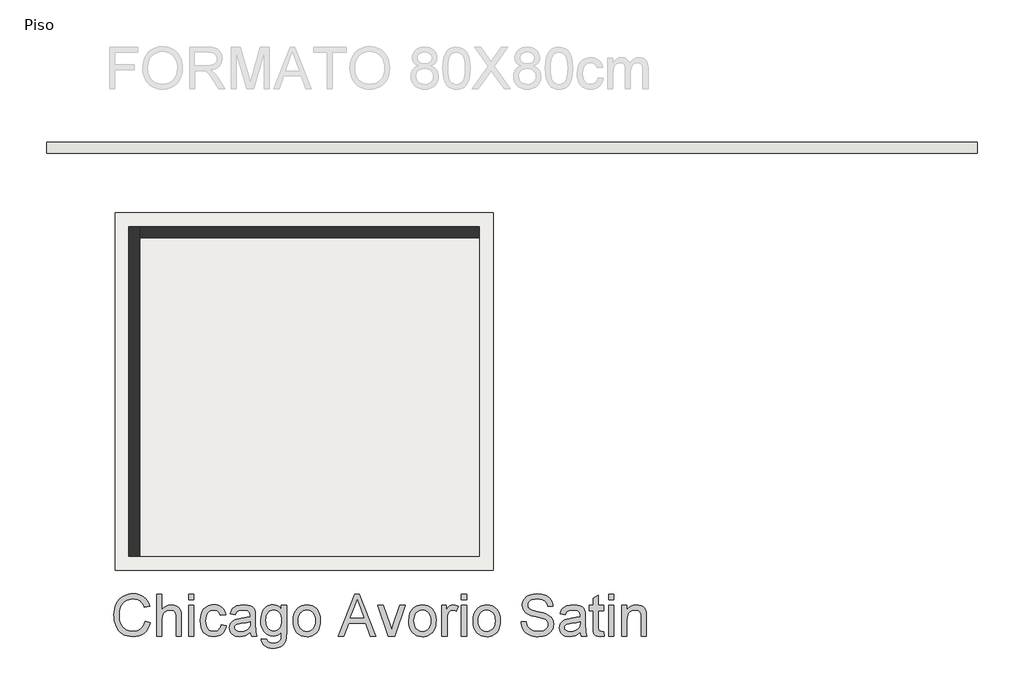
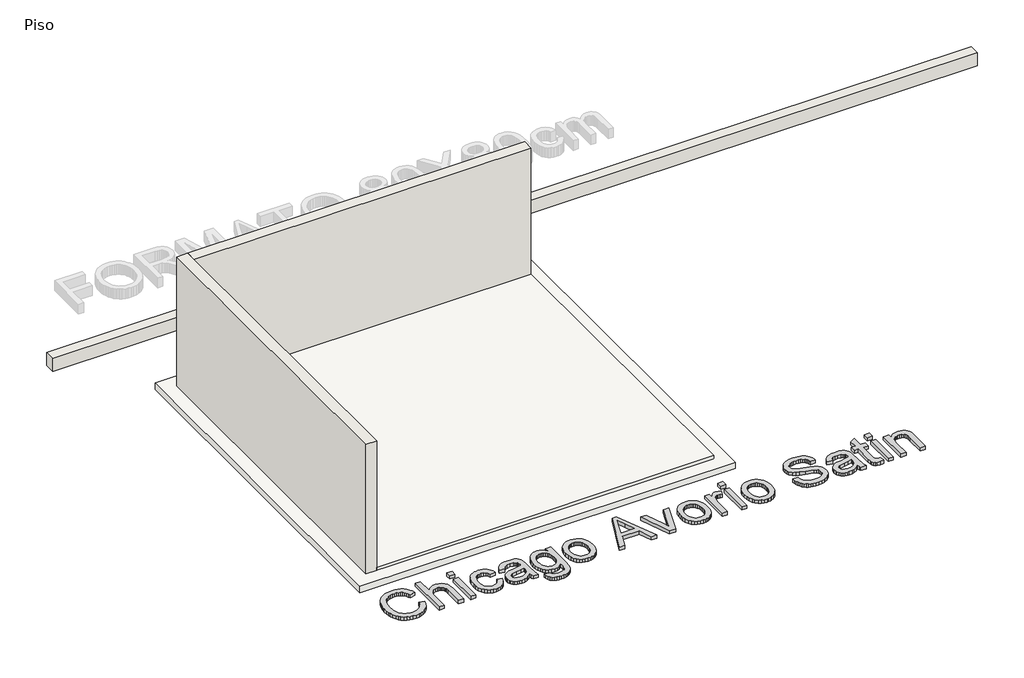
# One storey, part 1 of 2: 3 walls, 2 slabs, 1 proxy.
"""IFC4 building model written with IfcOpenShell, lengths in millimetres."""

from ifc_helpers import new_model, si_unit, frame, origin, origin_with_axes, place, context, project, spatial, polyline, outline, extrude, faceted_brep, element, save

model = new_model("IFC4")

# Units and contexts
model_context = context("Model", 3, world=origin())
ifc_project = project(units=[si_unit("LENGTHUNIT", "METRE", prefix="MILLI")], contexts=[model_context])

# Site, building, storey
site = spatial("IfcSite", under=ifc_project)
building = spatial("IfcBuilding", under=site)
storey = spatial("IfcBuildingStorey", under=building, Name="Piso", Elevation=0.0)

# Proxy
placement = place(None, origin())
element("IfcBuildingElementProxy", 1, Name="600mm Arial", ObjectType="600mm Arial", at=placement, inside=storey, context=model_context, shape_type="SweptSolid", body=[
    extrude(outline(polyline([(93115.5783578, -5019.2053005), (93190.9205904, -5038.6294699), (93176.0121726, -5085.4838405), (93156.1557419, -5126.424508), (93131.3512984, -5161.4514725), (93101.598842, -5190.5647339), (93067.5697575, -5213.4515925), (93029.9354294, -5229.7993486), (92988.6958577, -5239.6080023), (92943.8510425, -5242.8775536), (92897.9071798, -5240.4035472), (92856.4606745, -5232.9815279), (92819.5115266, -5220.6114958), (92787.0597361, -5203.2934509), (92758.6592461, -5181.2849105), (92733.8639996, -5154.8433921), (92712.6739967, -5123.9688957), (92695.0892373, -5088.6614212), (92681.279867, -5050.4476789), (92671.416031, -5010.8543792), (92665.4977294, -4969.881522), (92663.5249622, -4927.5291073), (92665.7552468, -4882.0864839), (92672.4461005, -4839.6420987), (92683.5975235, -4800.1959517), (92699.2095157, -4763.7480431), (92718.9325892, -4730.9007794), (92742.417256, -4702.2565676), (92769.6635163, -4677.8154075), (92800.67137, -4657.5772993), (92834.3877548, -4641.7077897), (92869.7596087, -4630.3724257), (92906.7869315, -4623.5712073), (92945.4697233, -4621.3041345), (92988.5625005, -4624.2379934), (93028.0776253, -4633.0395702), (93064.0150977, -4647.7088647), (93096.3749177, -4668.2458771), (93124.6236564, -4694.1079814), (93148.2278849, -4724.7525516), (93167.1876032, -4760.1795877), (93181.5028114, -4800.3890898), (93106.1605788, -4818.3417311), (93094.2963844, -4788.713435), (93080.0409571, -4763.3985552), (93063.3942968, -4742.3970918), (93044.3564036, -4725.7090448), (93022.8169128, -4712.9941233), (92998.6654598, -4703.9120365), (92971.9020446, -4698.4627845), (92942.5266673, -4696.6463671), (92908.727509, -4698.6605211), (92877.8162244, -4704.7029828), (92849.7928134, -4714.7737525), (92824.6572761, -4728.8728299), (92802.7269106, -4746.3656188), (92784.3190153, -4766.6175226), (92769.43359, -4789.6285414), (92758.0706349, -4815.3986752), (92743.6680548, -4870.5441863), (92738.8671948, -4927.3819545), (92744.5509716, -4996.985228), (92751.6556926, -5028.2551976), (92761.6023021, -5057.1707224), (92774.5517483, -5083.1569868), (92790.6649797, -5105.6391753), (92809.9419962, -5124.6172877), (92832.3827979, -5140.0913241), (92856.8975344, -5152.0980727), (92882.3963552, -5160.6743218), (92908.8792603, -5165.8200712), (92936.3462498, -5167.535321), (92969.1015429, -5165.1992703), (92999.2356769, -5158.1911183), (93026.7486516, -5146.5108649), (93051.6404671, -5130.1585103), (93073.3225122, -5109.2076306), (93091.2061757, -5083.7318025), (93105.2914575, -5053.7310258), (93115.5783578, -5019.2053005)])), origin_with_axes(), (0.0, 0.0, 1.0), 50.0),
    extrude(outline(polyline([(93285.0983812, -5233.4597745), (93285.0983812, -4630.7219136), (93360.4406138, -4630.7219136), (93360.4406138, -4852.3340275), (93388.1145369, -4821.3031812), (93419.1913685, -4799.138291), (93453.6711085, -4785.8393569), (93491.5537569, -4781.4063788), (93537.0607597, -4786.2440271), (93576.1666158, -4800.7569718), (93606.9583388, -4823.8047788), (93627.5229423, -4854.2470139), (93639.1112252, -4896.0751967), (93642.9739861, -4953.280847), (93642.9739861, -5233.4597745), (93567.6317535, -5233.4597745), (93567.6317535, -4961.0799453), (93566.1326344, -4935.6409053), (93561.635277, -4913.9174735), (93554.1396813, -4895.9096498), (93543.6458474, -4881.6174343), (93530.4020956, -4870.7373243), (93514.6567462, -4862.9658172), (93496.4097992, -4858.3029129), (93475.6612547, -4856.7486114), (93443.821068, -4860.9424662), (93413.9306559, -4873.5240304), (93389.1721976, -4893.2792936), (93372.7278725, -4918.994245), (93363.5124285, -4953.1704824), (93360.4406138, -4998.3096032), (93360.4406138, -5233.4597745), (93285.0983812, -5233.4597745)])), origin_with_axes(), (0.0, 0.0, 1.0), 50.0),
    extrude(outline(polyline([(93746.569556, -4706.0641462), (93746.569556, -4630.7219136), (93821.9117886, -4630.7219136), (93821.9117886, -4706.0641462), (93746.569556, -4706.0641462)])), origin_with_axes(), (0.0, 0.0, 1.0), 50.0),
    extrude(outline(polyline([(93746.569556, -5233.4597745), (93746.569556, -4790.8241579), (93821.9117886, -4790.8241579), (93821.9117886, -5233.4597745), (93746.569556, -5233.4597745)])), origin_with_axes(), (0.0, 0.0, 1.0), 50.0),
    extrude(outline(polyline([(94217.4585098, -5073.3575302), (94292.8007424, -5082.7753093), (94284.606171, -5118.3265056), (94271.7946805, -5149.7850147), (94254.366271, -5177.1508366), (94232.3209424, -5200.4239713), (94206.5875968, -5218.9974136), (94178.0951363, -5232.264158), (94146.8435608, -5240.2242047), (94112.8328704, -5242.8775536), (94070.5770247, -5239.175741), (94032.6897777, -5228.0703033), (93999.1711294, -5209.5612404), (93970.0210798, -5183.6485524), (93946.4260484, -5150.8196828), (93929.5724545, -5111.5620754), (93919.4602981, -5065.8757301), (93916.0895793, -5013.760647), (93921.8469326, -4946.7141534), (93929.0436241, -4916.5432312), (93939.1189922, -4888.6071922), (93952.1420149, -4863.4670564), (93968.1816699, -4841.6838437), (93987.2379572, -4823.2575543), (94009.3108769, -4808.1881881), (94033.4025491, -4796.4711465), (94058.5150938, -4788.1018311), (94084.648511, -4783.0802419), (94111.8028008, -4781.4063788), (94145.2294786, -4783.7056413), (94175.46478, -4790.6034287), (94202.5087052, -4802.0997411), (94226.3612541, -4818.1945783), (94246.6177564, -4838.5200586), (94262.8735421, -4862.7082998), (94275.1286111, -4890.7593019), (94283.3829633, -4922.673065), (94208.0407307, -4932.0908441), (94194.3739146, -4899.2205878), (94173.0919412, -4875.657746), (94145.3720328, -4861.4758951), (94112.391412, -4856.7486114), (94086.7914236, -4859.0754651), (94063.7022299, -4866.0560259), (94043.1238308, -4877.690294), (94025.0562263, -4893.9782694), (94010.345545, -4915.297031), (93999.8379155, -4942.0236579), (93993.5333379, -4974.1581502), (93991.431812, -5011.7005078), (93993.4873526, -5049.808484), (93999.6539745, -5082.3154568), (94009.9316778, -5109.2214262), (94024.3204623, -5130.5263922), (94042.0293819, -5146.7177986), (94062.2674901, -5158.2830888), (94085.0347871, -5165.2222629), (94110.3312728, -5167.535321), (94149.3451584, -5161.7595736), (94166.2171464, -5154.5398895), (94181.3324979, -5144.4323317), (94194.2681485, -5131.3265356), (94204.6010341, -5115.1121367), (94212.3311545, -5095.7891349), (94217.4585098, -5073.3575302)])), origin_with_axes(), (0.0, 0.0, 1.0), 50.0),
    extrude(outline(polyline([(94641.2585682, -5176.9531), (94605.261315, -5207.8183994), (94568.197204, -5228.015121), (94529.2201066, -5239.1619454), (94487.4838942, -5242.8775536), (94453.9376548, -5240.6426705), (94424.5208908, -5233.9380211), (94399.2336021, -5222.7636055), (94378.0757889, -5207.1194236), (94361.3693478, -5187.9987569), (94349.4361756, -5166.3948868), (94342.2762722, -5142.3078131), (94339.8896378, -5115.737536), (94343.4948813, -5084.5043547), (94354.310612, -5056.1406528), (94370.9940605, -5031.8604411), (94392.2024575, -5012.8777302), (94417.1264627, -4998.5303324), (94444.9567356, -4988.1560601), (94510.1454252, -4976.8252947), (94587.1799149, -4964.905918), (94640.8171098, -4950.9264022), (94641.2585682, -4934.1509832), (94636.0714321, -4900.5265689), (94629.5875119, -4888.0737633), (94620.5100237, -4878.5272256), (94604.8198566, -4868.9990819), (94585.708387, -4862.193265), (94537.22154, -4856.7486114), (94492.3399366, -4860.3722491), (94460.9963906, -4871.243162), (94439.6224467, -4891.3479131), (94424.6496495, -4922.673065), (94349.3074169, -4913.2552859), (94362.3856218, -4872.0525024), (94381.9017616, -4839.6788869), (94409.6768523, -4814.9204286), (94447.5319096, -4796.563117), (94493.8298587, -4785.1955634), (94546.9336247, -4781.4063788), (94597.8668869, -4784.754105), (94638.2419359, -4794.7972835), (94668.684171, -4809.8988394), (94689.8189916, -4828.4216978), (94703.8352956, -4851.322352), (94712.9219809, -4879.5572951), (94716.6008008, -4945.4817487), (94716.6008008, -5039.218081), (94720.4267736, -5170.1104949), (94726.0921563, -5202.4657164), (94735.436359, -5233.4597745), (94660.0941264, -5233.4597745), (94648.0275969, -5207.2665764), (94641.2585682, -5176.9531)]), holes=[polyline([(94641.2585682, -5026.2686348), (94590.6380057, -5038.8134109), (94519.710357, -5049.3716241), (94454.8895495, -5061.5853064), (94438.02216, -5069.9362276), (94425.5325663, -5081.4509341), (94417.8070444, -5095.2465089), (94415.2318704, -5110.4400353), (94420.8420708, -5132.8440488), (94437.6726721, -5151.2013604), (94465.3557922, -5163.4518308), (94503.5235492, -5167.535321), (94543.9905687, -5163.0287665), (94579.7486986, -5149.5091032), (94608.7377999, -5129.5882932), (94628.8977332, -5105.8782986), (94637.8372657, -5081.4509341), (94640.8171098, -5047.6057905), (94641.2585682, -5026.2686348)])]), origin_with_axes(), (0.0, 0.0, 1.0), 50.0),
    extrude(outline(polyline([(94801.3608125, -5271.1308908), (94876.7030451, -5280.5486699), (94885.0171782, -5304.0931176), (94901.1304096, -5320.2799254), (94932.8050494, -5332.8614896), (94974.2653503, -5337.0553443), (95018.4847661, -5332.3096666), (95036.345437, -5326.3775694), (95051.3734165, -5318.0726334), (95074.1821002, -5295.2639497), (95088.161616, -5264.8033205), (95092.2451061, -5232.3929167), (95093.3119639, -5176.9531), (95068.2408059, -5201.6747701), (95040.2633802, -5219.3331059), (95009.3796867, -5229.9281073), (94975.5897255, -5233.4597745), (94934.2811759, -5229.3486932), (94897.9114422, -5217.0154493), (94866.4805242, -5196.4600428), (94839.988422, -5167.6824738), (94818.9685645, -5133.1567485), (94803.9543806, -5095.3568735), (94794.9458702, -5054.2828487), (94791.9430335, -5009.9346742), (94797.3325047, -4949.1053863), (94813.5009184, -4893.168929), (94825.4846744, -4867.9460197), (94839.8780574, -4845.7673339), (94856.6810676, -4826.6328716), (94875.8937048, -4810.5426328), (94897.2078679, -4797.7955217), (94920.3154557, -4788.6904423), (94945.2164682, -4783.2273947), (94971.9109055, -4781.4063788), (95007.1448036, -4785.5266572), (95039.122946, -4797.8874922), (95067.8453328, -4818.4888839), (95093.3119639, -4847.3308324), (95093.3119639, -4790.8241579), (95168.6541965, -4790.8241579), (95168.6541965, -5172.9799745), (95163.5038486, -5261.216471), (95157.0659137, -5294.0361435), (95148.0528048, -5319.3234322), (95136.2483913, -5339.7178903), (95121.4365424, -5357.8590712), (95103.6172583, -5373.7469748), (95082.7905388, -5387.3816013), (95059.1679162, -5398.3260906), (95032.9609226, -5406.143583), (95004.169558, -5410.8340785), (94972.7938223, -5412.397577), (94935.8814626, -5410.1948835), (94902.6939081, -5403.5868032), (94873.2311588, -5392.5733359), (94847.4932147, -5377.1544818), (94826.7032835, -5357.3118467), (94812.0845727, -5333.0270365), (94803.6370824, -5304.3000512), (94801.3608125, -5271.1308908)]), holes=[polyline([(94867.2852661, -5004.7843263), (94869.2948215, -5042.0369768), (94875.3234877, -5073.8909591), (94885.3712647, -5100.3462731), (94899.4381524, -5121.4029188), (94916.5400667, -5137.4655664), (94935.6929231, -5148.9388861), (94956.8967216, -5155.8228779), (94980.1514622, -5158.1175419), (95003.1762766, -5155.8366735), (95024.2789075, -5148.9940684), (95043.459355, -5137.5897266), (95060.7176191, -5121.623648), (95074.977645, -5100.7739359), (95085.1633777, -5074.7186936), (95091.2748174, -5043.457921), (95093.3119639, -5006.9916183), (95091.2150365, -4972.0474273), (95084.9242544, -4941.67417), (95074.4396176, -4915.8718466), (95059.7611259, -4894.6404569), (95042.1303813, -4878.0627745), (95022.7889854, -4866.2215728), (95001.7369383, -4859.1168518), (94978.9742398, -4856.7486114), (94956.5932189, -4859.0800636), (94935.9504405, -4866.07442), (94917.0459044, -4877.7316807), (94899.8796108, -4894.0518458), (94885.619585, -4914.9613387), (94875.4338523, -4940.386583), (94869.3224126, -4970.3275789), (94867.2852661, -5004.7843263)])]), origin_with_axes(), (0.0, 0.0, 1.0), 50.0),
    extrude(outline(polyline([(95262.8319873, -5012.1419662), (95266.9062804, -4954.8167543), (95279.1291597, -4905.4193994), (95299.5006252, -4863.9499015), (95328.0206768, -4830.4082606), (95356.7338666, -4808.9699373), (95388.4269004, -4793.6568493), (95423.0997785, -4784.4689964), (95460.7525007, -4781.4063788), (95502.3185676, -4785.1357826), (95539.902312, -4796.3239937), (95573.5037337, -4814.9710124), (95603.1228328, -4841.0768384), (95627.2972784, -4873.7585552), (95644.5647396, -4912.1332458), (95654.9252163, -4956.2009103), (95658.3787085, -5005.9615487), (95656.8519982, -5046.2906124), (95652.2718674, -5082.0763335), (95644.638316, -5113.3187119), (95633.951344, -5140.0177477), (95620.3443087, -5163.0793503), (95603.9505673, -5183.4094291), (95584.7701198, -5201.007984), (95562.8029662, -5215.8750151), (95538.904432, -5227.6886257), (95513.9298431, -5236.126919), (95487.8791993, -5241.1898949), (95460.7525007, -5242.8775536), (95418.5794285, -5239.1619454), (95380.6461962, -5228.015121), (95346.952804, -5209.4370802), (95317.4992518, -5183.4278232), (95293.5823236, -5150.4288082), (95276.4988034, -5110.8814937), (95266.2486913, -5064.7858797), (95262.8319873, -5012.1419662)]), holes=[polyline([(95338.1742199, -5011.9948134), (95340.3539207, -5048.5392911), (95346.8930232, -5080.1817412), (95357.7915273, -5106.9221637), (95373.049433, -5128.7605587), (95391.6090797, -5145.7245172), (95412.4128065, -5157.8416304), (95435.4606135, -5165.1118983), (95460.7525007, -5167.535321), (95485.9156292, -5165.0981027), (95508.8714657, -5157.7864481), (95529.6200102, -5145.600357), (95548.1612627, -5128.5398295), (95563.4191685, -5106.4853039), (95574.3176726, -5079.3172185), (95580.8567751, -5047.0355734), (95583.0364759, -5009.6403686), (95580.8429795, -4974.2547192), (95574.2624903, -4943.4400036), (95563.2950083, -4917.1962218), (95547.9405335, -4895.5233737), (95529.3303031, -4878.5594152), (95508.5955542, -4866.442302), (95485.7362867, -4859.1720341), (95460.7525007, -4856.7486114), (95435.4606135, -4859.162837), (95412.4128065, -4866.4055138), (95391.6090797, -4878.4766418), (95373.049433, -4895.3762209), (95357.7915273, -4917.1502365), (95346.8930232, -4943.8446738), (95340.3539207, -4975.4595328), (95338.1742199, -5011.9948134)])]), origin_with_axes(), (0.0, 0.0, 1.0), 50.0),
    extrude(outline(polyline([(95917.8090915, -5233.4597745), (96158.4039163, -4630.7219136), (96222.5625363, -4630.7219136), (96463.1573611, -5233.4597745), (96383.5476974, -5233.4597745), (96314.5330351, -5045.104193), (96066.2862648, -5045.104193), (95997.4187553, -5233.4597745), (95917.8090915, -5233.4597745)]), holes=[polyline([(96093.9509908, -4969.7619604), (96287.0154619, -4969.7619604), (96232.7160794, -4821.5790927), (96190.4832263, -4706.0641462), (96152.9592628, -4808.6296465), (96093.9509908, -4969.7619604)])]), origin_with_axes(), (0.0, 0.0, 1.0), 50.0),
    extrude(outline(polyline([(96642.8309276, -5233.4597745), (96487.1432672, -4790.8241579), (96566.9000838, -4790.8241579), (96661.2250274, -5055.9935), (96689.6255174, -5145.1680957), (96717.4373962, -5060.9966952), (96812.350951, -4790.8241579), (96892.1077675, -4790.8241579), (96738.3330935, -5233.4597745), (96642.8309276, -5233.4597745)])), origin_with_axes(), (0.0, 0.0, 1.0), 50.0),
    extrude(outline(polyline([(96939.1966629, -5012.1419662), (96943.270956, -4954.8167543), (96955.4938353, -4905.4193994), (96975.8653008, -4863.9499015), (97004.3853525, -4830.4082606), (97033.0985422, -4808.9699373), (97064.7915761, -4793.6568493), (97099.4644541, -4784.4689964), (97137.1171763, -4781.4063788), (97178.6832432, -4785.1357826), (97216.2669876, -4796.3239937), (97249.8684093, -4814.9710124), (97279.4875084, -4841.0768384), (97303.6619541, -4873.7585552), (97320.9294152, -4912.1332458), (97331.2898919, -4956.2009103), (97334.7433841, -5005.9615487), (97333.2166738, -5046.2906124), (97328.636543, -5082.0763335), (97321.0029916, -5113.3187119), (97310.3160196, -5140.0177477), (97296.7089843, -5163.0793503), (97280.3152429, -5183.4094291), (97261.1347954, -5201.007984), (97239.1676418, -5215.8750151), (97215.2691077, -5227.6886257), (97190.2945187, -5236.126919), (97164.2438749, -5241.1898949), (97137.1171763, -5242.8775536), (97094.9441041, -5239.1619454), (97057.0108719, -5228.015121), (97023.3174796, -5209.4370802), (96993.8639274, -5183.4278232), (96969.9469992, -5150.4288082), (96952.863479, -5110.8814937), (96942.6133669, -5064.7858797), (96939.1966629, -5012.1419662)]), holes=[polyline([(97014.5388955, -5011.9948134), (97016.7185963, -5048.5392911), (97023.2576988, -5080.1817412), (97034.1562029, -5106.9221637), (97049.4141087, -5128.7605587), (97067.9737553, -5145.7245172), (97088.7774821, -5157.8416304), (97111.8252891, -5165.1118983), (97137.1171763, -5167.535321), (97162.2803048, -5165.0981027), (97185.2361413, -5157.7864481), (97205.9846858, -5145.600357), (97224.5259384, -5128.5398295), (97239.7838441, -5106.4853039), (97250.6823482, -5079.3172185), (97257.2214507, -5047.0355734), (97259.4011515, -5009.6403686), (97257.2076551, -4974.2547192), (97250.6271659, -4943.4400036), (97239.6596839, -4917.1962218), (97224.3052092, -4895.5233737), (97205.6949787, -4878.5594152), (97184.9602298, -4866.442302), (97162.1009623, -4859.1720341), (97137.1171763, -4856.7486114), (97111.8252891, -4859.162837), (97088.7774821, -4866.4055138), (97067.9737553, -4878.4766418), (97049.4141087, -4895.3762209), (97034.1562029, -4917.1502365), (97023.2576988, -4943.8446738), (97016.7185963, -4975.4595328), (97014.5388955, -5011.9948134)])]), origin_with_axes(), (0.0, 0.0, 1.0), 50.0),
    extrude(outline(polyline([(97419.5033958, -5233.4597745), (97419.5033958, -4790.8241579), (97485.4278493, -4790.8241579), (97485.4278493, -4856.307153), (97509.7816374, -4818.3417311), (97532.2224391, -4795.9745058), (97554.7368172, -4785.0484106), (97579.3113345, -4781.4063788), (97616.835298, -4787.2189144), (97654.9478727, -4804.6565209), (97629.7847443, -4872.1996552), (97603.2972406, -4860.6113724), (97576.8097369, -4856.7486114), (97554.3137529, -4860.4642196), (97534.2090019, -4871.611044), (97517.9670118, -4889.3429562), (97507.0593107, -4912.8138275), (97497.899049, -4954.8995278), (97494.8456284, -5000.8112008), (97494.8456284, -5233.4597745), (97419.5033958, -5233.4597745)])), origin_with_axes(), (0.0, 0.0, 1.0), 50.0),
    extrude(outline(polyline([(97702.0367681, -4706.0641462), (97702.0367681, -4630.7219136), (97777.3790007, -4630.7219136), (97777.3790007, -4706.0641462), (97702.0367681, -4706.0641462)])), origin_with_axes(), (0.0, 0.0, 1.0), 50.0),
    extrude(outline(polyline([(97702.0367681, -5233.4597745), (97702.0367681, -4790.8241579), (97777.3790007, -4790.8241579), (97777.3790007, -5233.4597745), (97702.0367681, -5233.4597745)])), origin_with_axes(), (0.0, 0.0, 1.0), 50.0),
    extrude(outline(polyline([(97871.5567915, -5012.1419662), (97875.6310846, -4954.8167543), (97887.8539639, -4905.4193994), (97908.2254294, -4863.9499015), (97936.745481, -4830.4082606), (97965.4586708, -4808.9699373), (97997.1517046, -4793.6568493), (98031.8245827, -4784.4689964), (98069.4773049, -4781.4063788), (98111.0433718, -4785.1357826), (98148.6271161, -4796.3239937), (98182.2285379, -4814.9710124), (98211.847637, -4841.0768384), (98236.0220826, -4873.7585552), (98253.2895438, -4912.1332458), (98263.6500205, -4956.2009103), (98267.1035127, -5005.9615487), (98265.5768024, -5046.2906124), (98260.9966716, -5082.0763335), (98253.3631202, -5113.3187119), (98242.6761482, -5140.0177477), (98229.0691129, -5163.0793503), (98212.6753715, -5183.4094291), (98193.494924, -5201.007984), (98171.5277703, -5215.8750151), (98147.6292362, -5227.6886257), (98122.6546473, -5236.126919), (98096.6040035, -5241.1898949), (98069.4773049, -5242.8775536), (98027.3042327, -5239.1619454), (97989.3710004, -5228.015121), (97955.6776082, -5209.4370802), (97926.224056, -5183.4278232), (97902.3071278, -5150.4288082), (97885.2236076, -5110.8814937), (97874.9734955, -5064.7858797), (97871.5567915, -5012.1419662)]), holes=[polyline([(97946.8990241, -5011.9948134), (97949.0787249, -5048.5392911), (97955.6178274, -5080.1817412), (97966.5163315, -5106.9221637), (97981.7742372, -5128.7605587), (98000.3338839, -5145.7245172), (98021.1376107, -5157.8416304), (98044.1854177, -5165.1118983), (98069.4773049, -5167.535321), (98094.6404334, -5165.0981027), (98117.5962699, -5157.7864481), (98138.3448144, -5145.600357), (98156.8860669, -5128.5398295), (98172.1439727, -5106.4853039), (98183.0424768, -5079.3172185), (98189.5815793, -5047.0355734), (98191.7612801, -5009.6403686), (98189.5677837, -4974.2547192), (98182.9872945, -4943.4400036), (98172.0198125, -4917.1962218), (98156.6653377, -4895.5233737), (98138.0551073, -4878.5594152), (98117.3203584, -4866.442302), (98094.4610909, -4859.1720341), (98069.4773049, -4856.7486114), (98044.1854177, -4859.162837), (98021.1376107, -4866.4055138), (98000.3338839, -4878.4766418), (97981.7742372, -4895.3762209), (97966.5163315, -4917.1502365), (97955.6178274, -4943.8446738), (97949.0787249, -4975.4595328), (97946.8990241, -5011.9948134)])]), origin_with_axes(), (0.0, 0.0, 1.0), 50.0),
    extrude(outline(polyline([(98568.4724431, -5026.2686348), (98643.8146758, -5026.2686348), (98652.4599026, -5068.0784236), (98668.0948874, -5101.6844438), (98692.4854637, -5128.3558885), (98727.3974651, -5149.3619504), (98770.0717765, -5162.9919783), (98817.7492831, -5167.535321), (98859.7246187, -5164.0956243), (98896.47603, -5153.7765343), (98926.2560776, -5137.4425738), (98947.3173218, -5115.9582652), (98959.8437037, -5091.2917775), (98964.0191644, -5065.4112791), (98960.8921674, -5040.1929683), (98951.5111765, -5018.3959601), (98932.4548892, -4999.7995253), (98900.3020028, -4984.1829346), (98790.5995918, -4955.4145625), (98718.5866913, -4936.3766693), (98672.5094714, -4918.258481), (98635.003902, -4892.9114116), (98608.4244278, -4862.193265), (98592.5871079, -4826.7662288), (98587.3080013, -4787.2924908), (98588.9404777, -4764.8562876), (98593.8379067, -4743.1650454), (98602.0002885, -4722.2187643), (98613.427623, -4702.0174443), (98627.9911514, -4683.3842212), (98645.5621152, -4667.1422311), (98666.1405143, -4653.291474), (98689.7263488, -4641.8319499), (98742.7381443, -4626.4360884), (98801.4153225, -4621.3041345), (98864.9853313, -4626.6752117), (98920.6090889, -4642.788443), (98944.9444829, -4654.7905931), (98966.3000327, -4669.3127349), (98984.6757384, -4686.3548683), (99000.0715999, -4705.9169934), (99012.3680556, -4727.4288931), (99021.4455438, -4750.3203502), (99027.3040646, -4774.5913649), (99029.9436179, -4800.241937), (98954.6013853, -4800.241937), (98949.5614019, -4776.2008486), (98940.7690223, -4755.2867572), (98928.2242462, -4737.4996627), (98911.9270738, -4722.8395652), (98891.5740025, -4711.380041), (98866.8615294, -4703.1946667), (98837.7896548, -4698.283442), (98804.3583785, -4696.6463671), (98769.8602444, -4698.2650479), (98740.3836995, -4703.1210903), (98715.9287439, -4711.2144941), (98696.4953775, -4722.5452596), (98681.6881272, -4736.1660905), (98671.1115198, -4751.1296906), (98664.7655554, -4767.4360601), (98662.6502339, -4785.0851988), (98664.149353, -4800.2695281), (98668.6467104, -4814.0375118), (98676.1423061, -4826.3891498), (98686.63614, -4837.3244421), (98703.1540416, -4847.6803203), (98729.1632986, -4858.146563), (98809.6558792, -4879.4101423), (98892.7236337, -4899.6068639), (98942.9763142, -4917.2284114), (98985.9265372, -4944.5620437), (99002.5318107, -4960.6292898), (99015.8905257, -4978.2968226), (99026.1590319, -4997.4726716), (99033.4936791, -5018.0648663), (99039.361397, -5063.4982927), (99037.6737383, -5087.065733), (99032.6107624, -5109.9433946), (99024.1724691, -5132.1312775), (99012.3588585, -5153.6293815), (98997.3768643, -5173.6053739), (98979.43342, -5191.2269215), (98958.5285256, -5206.4940243), (98934.6621811, -5219.4066823), (98908.5287639, -5229.6751885), (98880.8226512, -5237.0098358), (98820.692339, -5242.8775536), (98782.1521015, -5241.295661), (98746.8768167, -5236.5499833), (98714.8664846, -5228.6405204), (98686.1211052, -5217.5672723), (98660.4659346, -5203.311845), (98637.7262287, -5185.8558443), (98617.9019877, -5165.1992703), (98600.9932115, -5141.3421229), (98587.3723806, -5115.0569544), (98577.4119756, -5087.1163168), (98571.1119965, -5057.5202103), (98568.4724431, -5026.2686348)])), origin_with_axes(), (0.0, 0.0, 1.0), 50.0),
    extrude(outline(polyline([(99425.4903391, -5176.9531), (99389.4930859, -5207.8183994), (99352.4289749, -5228.015121), (99313.4518775, -5239.1619454), (99271.7156651, -5242.8775536), (99238.1694257, -5240.6426705), (99208.7526617, -5233.9380211), (99183.465373, -5222.7636055), (99162.3075598, -5207.1194236), (99145.6011187, -5187.9987569), (99133.6679464, -5166.3948868), (99126.5080431, -5142.3078131), (99124.1214087, -5115.737536), (99127.7266522, -5084.5043547), (99138.5423829, -5056.1406528), (99155.2258314, -5031.8604411), (99176.4342284, -5012.8777302), (99201.3582335, -4998.5303324), (99229.1885065, -4988.1560601), (99294.377196, -4976.8252947), (99371.4116858, -4964.905918), (99425.0488807, -4950.9264022), (99425.4903391, -4934.1509832), (99420.303203, -4900.5265689), (99413.8192828, -4888.0737633), (99404.7417946, -4878.5272256), (99389.0516275, -4868.9990819), (99369.9401578, -4862.193265), (99321.4533109, -4856.7486114), (99276.5717075, -4860.3722491), (99245.2281615, -4871.243162), (99223.8542176, -4891.3479131), (99208.8814203, -4922.673065), (99133.5391877, -4913.2552859), (99146.6173927, -4872.0525024), (99166.1335325, -4839.6788869), (99193.9086231, -4814.9204286), (99231.7636804, -4796.563117), (99278.0616295, -4785.1955634), (99331.1653955, -4781.4063788), (99382.0986578, -4784.754105), (99422.4737067, -4794.7972835), (99452.9159418, -4809.8988394), (99474.0507625, -4828.4216978), (99488.0670665, -4851.322352), (99497.1537518, -4879.5572951), (99500.8325717, -4945.4817487), (99500.8325717, -5039.218081), (99504.6585445, -5170.1104949), (99510.3239272, -5202.4657164), (99519.6681299, -5233.4597745), (99444.3258973, -5233.4597745), (99432.2593678, -5207.2665764), (99425.4903391, -5176.9531)]), holes=[polyline([(99425.4903391, -5026.2686348), (99374.8697766, -5038.8134109), (99303.9421279, -5049.3716241), (99239.1213204, -5061.5853064), (99222.2539309, -5069.9362276), (99209.7643371, -5081.4509341), (99202.0388152, -5095.2465089), (99199.4636413, -5110.4400353), (99205.0738417, -5132.8440488), (99221.904443, -5151.2013604), (99249.5875631, -5163.4518308), (99287.7553201, -5167.535321), (99328.2223396, -5163.0287665), (99363.9804695, -5149.5091032), (99392.9695707, -5129.5882932), (99413.1295041, -5105.8782986), (99422.0690366, -5081.4509341), (99425.0488807, -5047.6057905), (99425.4903391, -5026.2686348)])]), origin_with_axes(), (0.0, 0.0, 1.0), 50.0),
    extrude(outline(polyline([(99764.5303859, -5170.6255297), (99773.9481649, -5235.6670665), (99717.5886433, -5242.8775536), (99681.4258432, -5239.7505566), (99654.4600929, -5230.3695657), (99635.4038056, -5215.9118033), (99622.9693941, -5197.5544918), (99616.126789, -5166.0270048), (99613.8459206, -5112.0587161), (99613.8459206, -4866.1663905), (99557.3392462, -4866.1663905), (99557.3392462, -4790.8241579), (99613.8459206, -4790.8241579), (99613.8459206, -4683.2554625), (99689.1881533, -4638.9624703), (99689.1881533, -4790.8241579), (99764.5303859, -4790.8241579), (99764.5303859, -4866.1663905), (99689.1881533, -4866.1663905), (99689.1881533, -5109.8514241), (99693.1612788, -5148.6997628), (99706.0371486, -5162.4585494), (99716.9080616, -5166.2661281), (99731.7153119, -5167.535321), (99764.5303859, -5170.6255297)])), origin_with_axes(), (0.0, 0.0, 1.0), 50.0),
    extrude(outline(polyline([(99839.8726185, -4706.0641462), (99839.8726185, -4630.7219136), (99915.2148511, -4630.7219136), (99915.2148511, -4706.0641462), (99839.8726185, -4706.0641462)])), origin_with_axes(), (0.0, 0.0, 1.0), 50.0),
    extrude(outline(polyline([(99839.8726185, -5233.4597745), (99839.8726185, -4790.8241579), (99915.2148511, -4790.8241579), (99915.2148511, -5233.4597745), (99839.8726185, -5233.4597745)])), origin_with_axes(), (0.0, 0.0, 1.0), 50.0),
    extrude(outline(polyline([(100028.2282, -5233.4597745), (100028.2282, -4790.8241579), (100103.5704326, -4790.8241579), (100103.5704326, -4852.6283331), (100129.7452366, -4821.4687281), (100161.1807531, -4799.2118674), (100197.8769821, -4785.857751), (100239.8339236, -4781.4063788), (100276.971611, -4784.9932283), (100310.9823015, -4795.7537766), (100339.3460033, -4812.3452546), (100359.5427249, -4833.4248929), (100373.2463292, -4858.9375093), (100382.1306794, -4888.8279214), (100386.1038049, -4961.6685565), (100386.1038049, -5233.4597745), (100310.7615723, -5233.4597745), (100310.7615723, -4971.8220995), (100308.5910685, -4932.8633962), (100302.0795572, -4905.161882), (100290.0682101, -4885.3146484), (100271.3981988, -4869.9187869), (100247.467475, -4860.0411553), (100219.6739903, -4856.7486114), (100196.7963287, -4858.5972185), (100175.546545, -4864.1430395), (100155.9246391, -4873.3860747), (100137.930611, -4886.3263239), (100122.8980329, -4904.4353151), (100112.1604772, -4929.1845763), (100105.7179438, -4960.5741075), (100103.5704326, -4998.6039088), (100103.5704326, -5233.4597745), (100028.2282, -5233.4597745)])), origin_with_axes(), (0.0, 0.0, 1.0), 50.0),
])

# Slabs
element("IfcSlab", 2, ObjectType="5cm - Porcelanato Chicago Avorio Satin  - Acetinado 80x80", at=placement, inside=storey, context=model_context, shape_type="SweptSolid", body=[
    extrude(outline(polyline([(97961.4685263, 542.6738568), (97961.4685263, -4077.9261432), (93040.8685263, -4077.9261432), (93040.8685263, 542.6738568), (97961.4685263, 542.6738568)])), origin_with_axes(), (0.0, 0.0, 1.0), 50.0),
])
element("IfcSlab", 3, ObjectType="CO02 - Concreto Estrutural Simples", at=placement, inside=storey, context=model_context, shape_type="SweptSolid", body=[
    extrude(outline(polyline([(98161.4685263, 901.4738568), (98161.4685263, -4277.9261432), (92682.0685263, -4277.9261432), (92682.0685263, 901.4738568), (98161.4685263, 901.4738568)])), frame((0.0, 0.0, -100.0), z_axis=(0.0, 0.0, 1.0), x_axis=(1.0, 0.0, 0.0)), (0.0, 0.0, 1.0), 100.0),
])

# Walls
element("IfcWall", 4, ObjectType="CO01 - Bloco de Concreto 14cm / Pintura Branca Simples", at=placement, inside=storey, context=model_context, shape_type="SweptSolid", body=[
    extrude(outline(polyline([(105186.699165, 1765.7486968), (91686.699165, 1765.7486968), (91686.699165, 1924.5486968), (105186.699165, 1924.5486968), (105186.699165, 1765.7486968)])), origin_with_axes(), (0.0, 0.0, 1.0), 200.0),
])
element("IfcWall", 5, ObjectType="CO01 - Bloco de Concreto 14cm / Pintura Branca Simples", at=placement, inside=storey, context=model_context, shape_type="Brep", body=[
    faceted_brep([(93040.8685263, -4077.9261432, 0.0), (93040.8685263, 542.6738568, 0.0), (93040.8685263, 701.4738568, 0.0), (93040.8685263, 701.4738568, 2000.0), (93040.8685263, 542.6738568, 2000.0), (93040.8685263, -4077.9261432, 2000.0), (92882.0685263, -4077.9261432, 0.0), (92882.0685263, -4077.9261432, 2000.0), (92882.0685263, 701.4738568, 2000.0), (92882.0685263, 701.4738568, 0.0)], [[[0, 1, 2, 3, 4, 5]], [[6, 7, 8, 9]], [[2, 1, 0, 6, 9]], [[5, 4, 3, 8, 7]], [[0, 5, 7, 6]], [[3, 2, 9, 8]]]),
])
element("IfcWall", 6, ObjectType="CO01 - Bloco de Concreto 14cm / Pintura Branca Simples", at=placement, inside=storey, context=model_context, shape_type="SweptSolid", body=[
    extrude(outline(polyline([(97961.4685263, 542.6738568), (93040.8685263, 542.6738568), (93040.8685263, 701.4738568), (97961.4685263, 701.4738568), (97961.4685263, 542.6738568)])), origin_with_axes(), (0.0, 0.0, 1.0), 2000.0),
])

save(model, "model.ifc")
